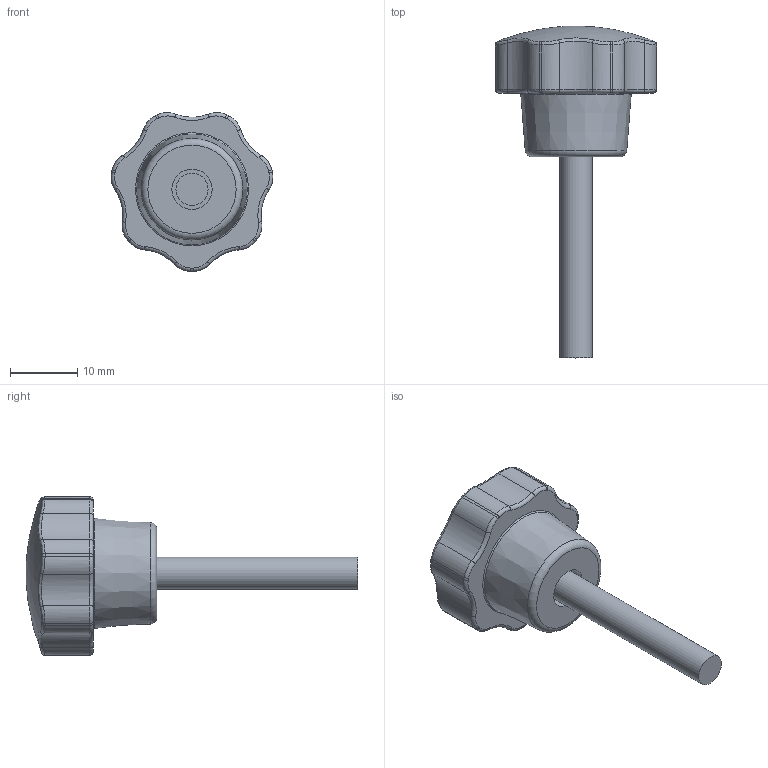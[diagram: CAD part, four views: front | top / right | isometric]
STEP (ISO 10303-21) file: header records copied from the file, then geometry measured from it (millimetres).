
FILE_DESCRIPTION(/* description */ (''),/* implementation_level */ '2;1');
FILE_NAME(/* name */ '\\SYNOLOGYNAS\web\db2\MSKB_M\MSKB5\도면\MSKB-M5-30.stp',/* time_stamp */ '2024-04-11T13:17:20+09:00',/* author */ ('user'),/* organization */ (''),/* preprocessor_version */ 'ST-DEVELOPER v15.6',/* originating_system */ 'Autodesk Inventor 2015',/* authorisation */ '');
FILE_SCHEMA (('AUTOMOTIVE_DESIGN { 1 0 10303 214 3 1 1 }'));
Length unit declared in the file: millimetre
Products named in the file (1): MSKB-M5-30
Bounding box: 24.11 x 49.5 x 23.68 mm (x, y, z)
Volume: 6043.8 mm3; surface area: 2458.7 mm2
Topology: 1 solids, 1 shells, 94 faces, 212 edges, 122 vertices
Faces by surface type: torus 37, cylinder 30, bspline 22, plane 4, cone 1
Full cylindrical faces by diameter (mm): 4.8 x1, 6 x1
Entity records: 3069 total; most frequent: CARTESIAN_POINT 1025, DIRECTION 444, ORIENTED_EDGE 412, AXIS2_PLACEMENT_3D 208, EDGE_CURVE 206, CIRCLE 135, VERTEX_POINT 122, EDGE_LOOP 102
